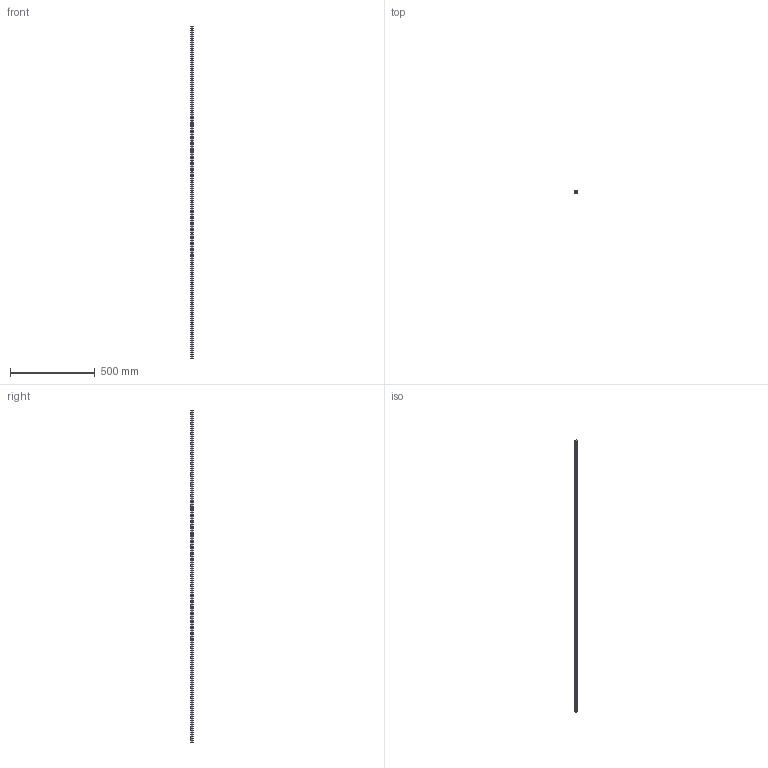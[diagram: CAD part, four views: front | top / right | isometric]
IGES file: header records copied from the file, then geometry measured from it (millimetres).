
Start section: SolidWorks IGES file using analytic representation for surfaces
Global section: file name: C:\Users\IanO\Desktop\L1016_v2\L1016.BL15_v2\L1016.BL15_v2_20190611_IGES\L1016.BL15-1960.igs; native system: SolidWorks 2017; preprocessor: SolidWorks 2017; author: IanO; date: 190612.123032; units: millimetre
Bounding box: 15 x 13 x 1960 mm (x, y, z)
Surface area: 119845.7 mm2 (no closed solid volume)
Topology: 0 solids, 0 shells, 191 faces, 4904 edges, 4904 vertices
Faces by surface type: revolution 136, bspline 55
